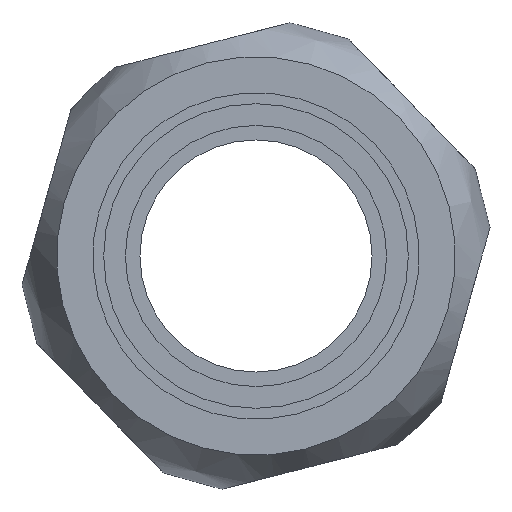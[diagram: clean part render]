
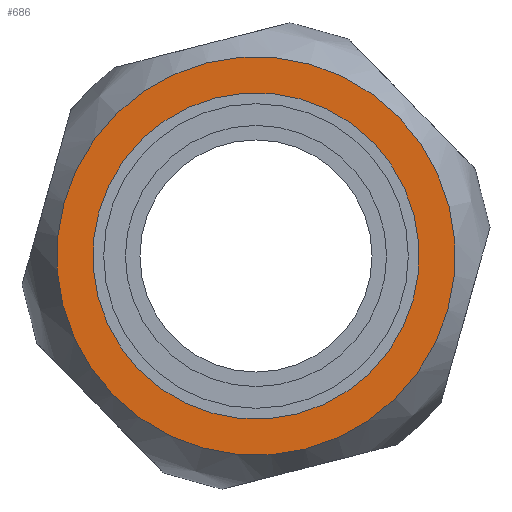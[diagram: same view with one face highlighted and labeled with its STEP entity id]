
A CAD part, left-side view. The second image highlights one B-rep face of the part: STEP entity #686.
In plain terms, the highlighted planar face has unit normal (-1, 0, 0).
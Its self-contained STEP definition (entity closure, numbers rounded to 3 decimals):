
#135=FACE_BOUND('',#235,.T.);
#169=FACE_OUTER_BOUND('',#234,.T.);
#234=EDGE_LOOP('',(#522,#523));
#235=EDGE_LOOP('',(#524));
#284=CIRCLE('',#744,13.735);
#285=CIRCLE('',#745,13.735);
#289=CIRCLE('',#753,11.25);
#332=VERTEX_POINT('',#1434);
#333=VERTEX_POINT('',#1438);
#337=VERTEX_POINT('',#1451);
#406=EDGE_CURVE('',#332,#333,#284,.T.);
#407=EDGE_CURVE('',#333,#332,#285,.T.);
#411=EDGE_CURVE('',#337,#337,#289,.T.);
#522=ORIENTED_EDGE('',*,*,#407,.F.);
#523=ORIENTED_EDGE('',*,*,#406,.F.);
#524=ORIENTED_EDGE('',*,*,#411,.T.);
#655=PLANE('',#754);
#686=ADVANCED_FACE('',(#169,#135),#655,.T.);
#744=AXIS2_PLACEMENT_3D('',#1439,#867,#868);
#745=AXIS2_PLACEMENT_3D('',#1440,#869,#870);
#753=AXIS2_PLACEMENT_3D('',#1452,#885,#886);
#754=AXIS2_PLACEMENT_3D('',#1453,#887,#888);
#867=DIRECTION('center_axis',(1.,0.,0.));
#868=DIRECTION('ref_axis',(0.,1.,0.));
#869=DIRECTION('center_axis',(1.,0.,0.));
#870=DIRECTION('ref_axis',(0.,1.,0.));
#885=DIRECTION('center_axis',(1.,0.,0.));
#886=DIRECTION('ref_axis',(0.,1.,0.));
#887=DIRECTION('center_axis',(-1.,0.,0.));
#888=DIRECTION('ref_axis',(0.,0.,1.));
#1434=CARTESIAN_POINT('',(0.,0.,13.735));
#1438=CARTESIAN_POINT('',(0.,13.735,0.));
#1439=CARTESIAN_POINT('Origin',(0.,0.,0.));
#1440=CARTESIAN_POINT('Origin',(0.,0.,0.));
#1451=CARTESIAN_POINT('',(0.,11.25,0.));
#1452=CARTESIAN_POINT('Origin',(0.,0.,0.));
#1453=CARTESIAN_POINT('Origin',(0.,12.493,0.));
